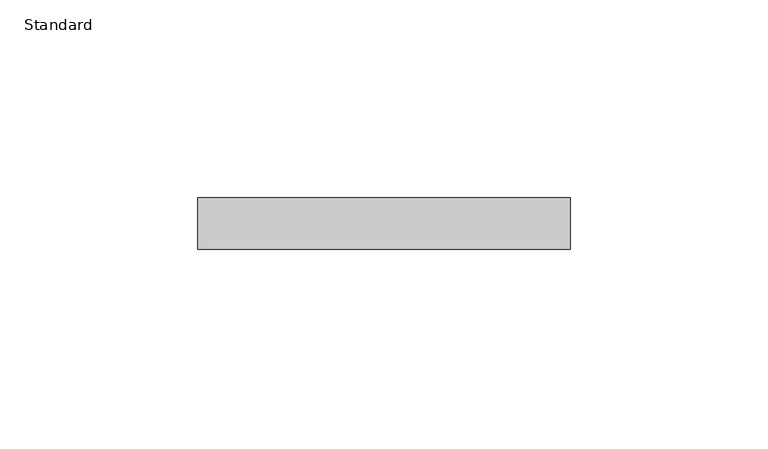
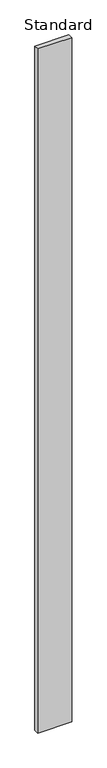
"""IFC4 building model written with IfcOpenShell, lengths in millimetres: furniture geometry, X_Partition-Compact Laminate-Duracube-Rectangular : Standard."""

from ifc_helpers import new_model, si_unit, origin, origin_with_axes, place, context, project, spatial, polyline, outline, extrude, source, transform, mapped, element, save


def standard_81af53f7(model_context):
    return source(origin(), model_context, "Body", "SweptSolid", [
        extrude(outline(polyline([(91.7003264, 0.0), (91.7003264, -13.0), (-2.2996736, -13.0), (-2.2996736, 0.0), (91.7003264, 0.0)])), origin_with_axes(), (0.0, 0.0, 1.0), 1999.0),
    ])


if __name__ == "__main__":
    model = new_model("IFC4")
    model_context = context("Model", 3, world=origin())
    ifc_project = project(units=[si_unit("LENGTHUNIT", "METRE", prefix="MILLI")], contexts=[model_context])
    site = spatial("IfcSite", under=ifc_project)
    building = spatial("IfcBuilding", under=site)
    placement = place(None, origin())
    standard_shape = standard_81af53f7(model_context)
    element("IfcFurniture", 1, ObjectType="X_Partition-Compact Laminate-Duracube-Rectangular : Standard", at=placement, inside=building, context=model_context, shape_type="MappedRepresentation", body=[
        mapped(standard_shape, transform((0.0, 0.0, 0.0), x_axis=(1.0, 0.0, 0.0), y_axis=(0.0, 1.0, 0.0), z_axis=(0.0, 0.0, 1.0))),
    ])
    save(model, "model.ifc")
